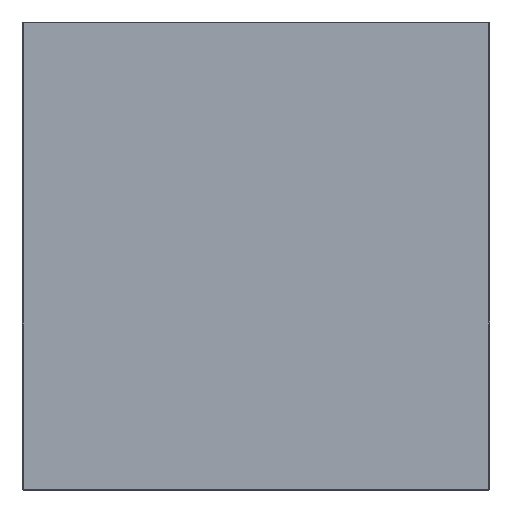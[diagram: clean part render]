
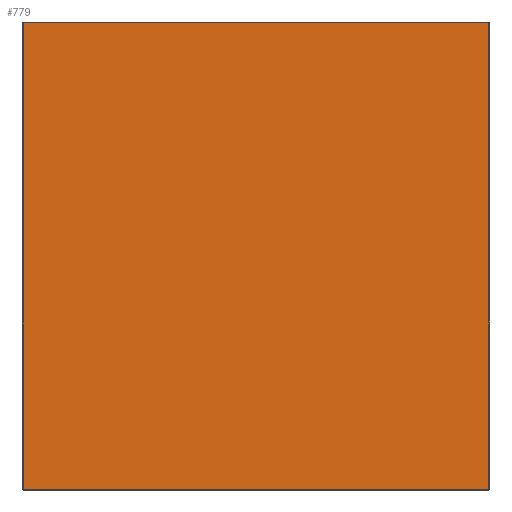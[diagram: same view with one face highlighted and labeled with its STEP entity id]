
A CAD part, top view. The second image highlights one B-rep face of the part: STEP entity #779.
In plain terms, the highlighted planar face has unit normal (0, 0, 1).
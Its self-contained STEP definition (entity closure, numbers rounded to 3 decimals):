
#37=PLANE('',#852);
#76=LINE('',#1169,#156);
#79=LINE('',#1184,#159);
#82=LINE('',#1188,#162);
#88=LINE('',#1198,#168);
#156=VECTOR('',#941,699.);
#159=VECTOR('',#958,699.);
#162=VECTOR('',#963,698.);
#168=VECTOR('',#977,698.);
#256=FACE_OUTER_BOUND('',#307,.T.);
#307=EDGE_LOOP('',(#602,#603,#604,#605));
#392=VERTEX_POINT('',#1158);
#395=VERTEX_POINT('',#1165);
#399=VERTEX_POINT('',#1177);
#401=VERTEX_POINT('',#1182);
#467=EDGE_CURVE('',#392,#395,#76,.T.);
#474=EDGE_CURVE('',#401,#399,#79,.T.);
#477=EDGE_CURVE('',#399,#392,#82,.T.);
#483=EDGE_CURVE('',#401,#395,#88,.T.);
#602=ORIENTED_EDGE('',*,*,#467,.F.);
#603=ORIENTED_EDGE('',*,*,#477,.F.);
#604=ORIENTED_EDGE('',*,*,#474,.F.);
#605=ORIENTED_EDGE('',*,*,#483,.T.);
#779=ADVANCED_FACE('',(#256),#37,.T.);
#852=AXIS2_PLACEMENT_3D('',#1197,#975,#976);
#941=DIRECTION('',(0.,-1.,0.));
#958=DIRECTION('',(0.,1.,0.));
#963=DIRECTION('',(1.,0.,0.));
#975=DIRECTION('center_axis',(0.,0.,1.));
#976=DIRECTION('ref_axis',(1.,0.,0.));
#977=DIRECTION('',(1.,0.,0.));
#1158=CARTESIAN_POINT('',(699.,699.,0.));
#1165=CARTESIAN_POINT('',(699.,0.,0.));
#1169=CARTESIAN_POINT('',(699.,0.,0.));
#1177=CARTESIAN_POINT('',(1.,699.,0.));
#1182=CARTESIAN_POINT('',(1.,0.,0.));
#1184=CARTESIAN_POINT('',(1.,0.,0.));
#1188=CARTESIAN_POINT('',(175.,699.,0.));
#1197=CARTESIAN_POINT('Origin',(0.,0.,0.));
#1198=CARTESIAN_POINT('',(0.,0.,0.));
